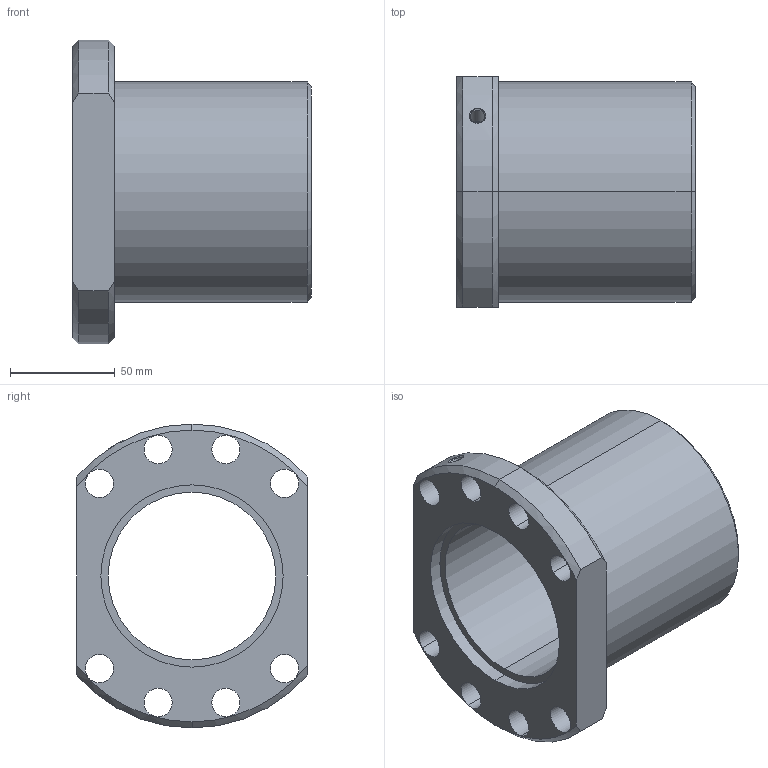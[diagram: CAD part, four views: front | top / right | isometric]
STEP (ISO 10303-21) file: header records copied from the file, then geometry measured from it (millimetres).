
FILE_DESCRIPTION(('starvars output'),'2;1');
FILE_NAME('cv20220530085258000008714.stp','08:52:58 2022/05/30',( 'Thomas Industrial Network Germany GmbH'),( 'Thomas Industrial Network Germany GmbH'),'unknown preprocess','ACIS' ,'unknown authorization');
FILE_SCHEMA(('AUTOMOTIVE_DESIGN_CC2 {UNKNOWN IMPLEMENTATION LEVEL}'));
Length unit declared in the file: millimetre
Products named in the file (1): PRODUCT_ID_1
Bounding box: 114 x 110 x 145 mm (x, y, z)
Volume: 488085.1 mm3; surface area: 90618.7 mm2
Topology: 1 solids, 1 shells, 54 faces, 130 edges, 82 vertices
Faces by surface type: cylinder 32, cone 14, plane 8
Entity records: 1867 total; most frequent: CARTESIAN_POINT 282, ORIENTED_EDGE 260, DIRECTION 168, EDGE_CURVE 130, VERTEX_POINT 82, EDGE_LOOP 76, FACE_BOUND 76, AXIS2_PLACEMENT_3D 61
